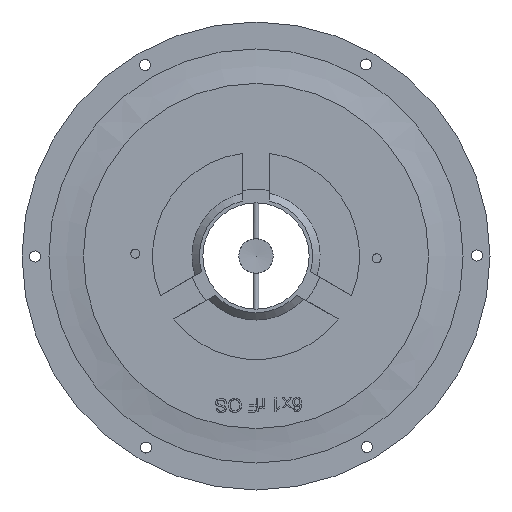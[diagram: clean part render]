
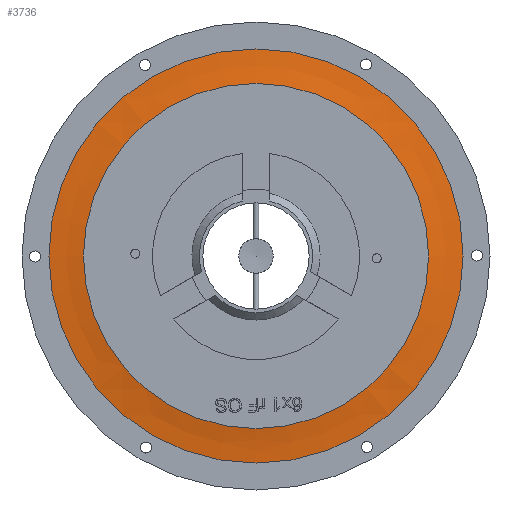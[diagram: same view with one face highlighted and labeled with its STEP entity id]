
A CAD part, front view. The second image highlights one B-rep face of the part: STEP entity #3736.
In plain terms, the highlighted free-form (B-spline) face has degree [2, 2] with [3, 9] control points.
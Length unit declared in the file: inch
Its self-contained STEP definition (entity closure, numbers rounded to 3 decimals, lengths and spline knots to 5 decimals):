
#11=(
BOUNDED_SURFACE()
B_SPLINE_SURFACE(2,2,((#7496,#7497,#7498,#7499,#7500,#7501,#7502,#7503,
#7504),(#7505,#7506,#7507,#7508,#7509,#7510,#7511,#7512,#7513),(#7514,#7515,
#7516,#7517,#7518,#7519,#7520,#7521,#7522)),.UNSPECIFIED.,.F.,.T.,.F.)
B_SPLINE_SURFACE_WITH_KNOTS((3,3),(3,2,2,2,3),(1.63846,1.77127),
(-3.14159,-1.5708,0.,1.5708,3.14159),
 .UNSPECIFIED.)
GEOMETRIC_REPRESENTATION_ITEM()
RATIONAL_B_SPLINE_SURFACE(((1.,0.707,1.,0.707,1.,
0.707,1.,0.707,1.),(0.998,0.706,
0.998,0.706,0.998,0.706,0.998,
0.706,0.998),(1.,0.707,1.,0.707,
1.,0.707,1.,0.707,1.)))
REPRESENTATION_ITEM('')
SURFACE()
);
#813=CIRCLE('',#3866,2.5);
#814=CIRCLE('',#3867,2.5);
#841=CIRCLE('',#3915,3.);
#843=CIRCLE('',#3917,3.);
#849=CIRCLE('',#3928,3.80159);
#1056=FACE_OUTER_BOUND('',#1290,.T.);
#1290=EDGE_LOOP('',(#3521,#3522,#3523,#3524,#3525,#3526));
#1835=VERTEX_POINT('',#7385);
#1836=VERTEX_POINT('',#7386);
#1863=VERTEX_POINT('',#7475);
#1864=VERTEX_POINT('',#7476);
#2370=EDGE_CURVE('',#1835,#1836,#813,.T.);
#2372=EDGE_CURVE('',#1836,#1835,#814,.T.);
#2411=EDGE_CURVE('',#1863,#1864,#841,.T.);
#2414=EDGE_CURVE('',#1864,#1863,#843,.T.);
#2421=EDGE_CURVE('',#1836,#1863,#849,.T.);
#3521=ORIENTED_EDGE('',*,*,#2370,.T.);
#3522=ORIENTED_EDGE('',*,*,#2421,.T.);
#3523=ORIENTED_EDGE('',*,*,#2414,.F.);
#3524=ORIENTED_EDGE('',*,*,#2411,.F.);
#3525=ORIENTED_EDGE('',*,*,#2421,.F.);
#3526=ORIENTED_EDGE('',*,*,#2372,.T.);
#3736=ADVANCED_FACE('',(#1056),#11,.T.);
#3866=AXIS2_PLACEMENT_3D('',#7387,#4399,#4400);
#3867=AXIS2_PLACEMENT_3D('',#7389,#4402,#4403);
#3915=AXIS2_PLACEMENT_3D('',#7477,#4510,#4511);
#3917=AXIS2_PLACEMENT_3D('',#7481,#4515,#4516);
#3928=AXIS2_PLACEMENT_3D('',#7523,#4538,#4539);
#4399=DIRECTION('center_axis',(0.,1.,0.));
#4400=DIRECTION('ref_axis',(1.,0.,0.));
#4402=DIRECTION('center_axis',(0.,1.,0.));
#4403=DIRECTION('ref_axis',(1.,0.,0.));
#4510=DIRECTION('center_axis',(0.,1.,0.));
#4511=DIRECTION('ref_axis',(1.,0.,0.));
#4515=DIRECTION('center_axis',(0.,1.,0.));
#4516=DIRECTION('ref_axis',(1.,0.,0.));
#4538=DIRECTION('center_axis',(-1.,0.,0.));
#4539=DIRECTION('ref_axis',(0.,0.,-1.));
#7385=CARTESIAN_POINT('',(-2.5,0.73372,0.));
#7386=CARTESIAN_POINT('',(0.,0.73372,-2.5));
#7387=CARTESIAN_POINT('Origin',(0.,0.73372,
0.));
#7389=CARTESIAN_POINT('Origin',(0.,0.73372,
0.));
#7475=CARTESIAN_POINT('',(0.,0.80116,-3.));
#7476=CARTESIAN_POINT('',(3.,0.80116,0.));
#7477=CARTESIAN_POINT('Origin',(0.,0.80116,
0.));
#7481=CARTESIAN_POINT('Origin',(0.,0.80116,
0.));
#7496=CARTESIAN_POINT('Ctrl Pts',(0.,0.80116,
-3.));
#7497=CARTESIAN_POINT('Ctrl Pts',(-3.,0.80116,-3.));
#7498=CARTESIAN_POINT('Ctrl Pts',(-3.,0.80116,0.));
#7499=CARTESIAN_POINT('Ctrl Pts',(-3.,0.80116,3.));
#7500=CARTESIAN_POINT('Ctrl Pts',(0.,0.80116,
3.));
#7501=CARTESIAN_POINT('Ctrl Pts',(3.,0.80116,3.));
#7502=CARTESIAN_POINT('Ctrl Pts',(3.,0.80116,0.));
#7503=CARTESIAN_POINT('Ctrl Pts',(3.,0.80116,-3.));
#7504=CARTESIAN_POINT('Ctrl Pts',(0.,0.80116,
-3.));
#7505=CARTESIAN_POINT('Ctrl Pts',(0.,0.78407,
-2.74776));
#7506=CARTESIAN_POINT('Ctrl Pts',(-2.74776,0.78407,-2.74776));
#7507=CARTESIAN_POINT('Ctrl Pts',(-2.74776,0.78407,0.));
#7508=CARTESIAN_POINT('Ctrl Pts',(-2.74776,0.78407,2.74776));
#7509=CARTESIAN_POINT('Ctrl Pts',(0.,0.78407,
2.74776));
#7510=CARTESIAN_POINT('Ctrl Pts',(2.74776,0.78407,2.74776));
#7511=CARTESIAN_POINT('Ctrl Pts',(2.74776,0.78407,0.));
#7512=CARTESIAN_POINT('Ctrl Pts',(2.74776,0.78407,-2.74776));
#7513=CARTESIAN_POINT('Ctrl Pts',(0.,0.78407,
-2.74776));
#7514=CARTESIAN_POINT('Ctrl Pts',(0.,0.73372,
-2.5));
#7515=CARTESIAN_POINT('Ctrl Pts',(-2.5,0.73372,-2.5));
#7516=CARTESIAN_POINT('Ctrl Pts',(-2.5,0.73372,0.));
#7517=CARTESIAN_POINT('Ctrl Pts',(-2.5,0.73372,2.5));
#7518=CARTESIAN_POINT('Ctrl Pts',(0.,0.73372,
2.5));
#7519=CARTESIAN_POINT('Ctrl Pts',(2.5,0.73372,2.5));
#7520=CARTESIAN_POINT('Ctrl Pts',(2.5,0.73372,0.));
#7521=CARTESIAN_POINT('Ctrl Pts',(2.5,0.73372,-2.5));
#7522=CARTESIAN_POINT('Ctrl Pts',(0.,0.73372,
-2.5));
#7523=CARTESIAN_POINT('Origin',(0.,-2.99173,
-3.25702));
